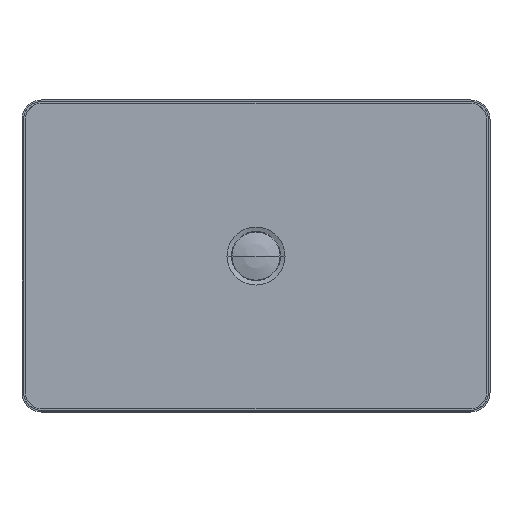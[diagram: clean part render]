
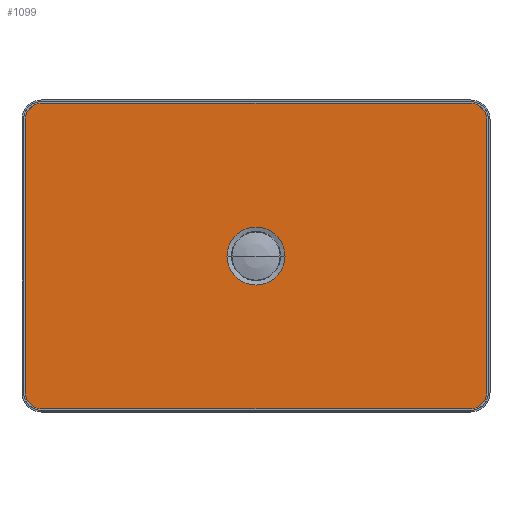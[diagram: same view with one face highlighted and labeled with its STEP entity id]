
A CAD part, top view. The second image highlights one B-rep face of the part: STEP entity #1099.
In plain terms, the highlighted planar face has unit normal (0, 0, 1).
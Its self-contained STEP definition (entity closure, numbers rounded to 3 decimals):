
#567=CARTESIAN_POINT('',(274.9,174.9,-110.));
#568=DIRECTION('',(0.,0.,1.));
#569=DIRECTION('',(1.,0.,0.));
#570=AXIS2_PLACEMENT_3D('',#567,#568,#569);
#580=CARTESIAN_POINT('',(0.,0.,-110.));
#581=DIRECTION('',(0.,0.,-1.));
#582=DIRECTION('',(1.,0.,0.));
#583=AXIS2_PLACEMENT_3D('',#580,#581,#582);
#585=CARTESIAN_POINT('',(0.,0.,-110.));
#586=DIRECTION('',(0.,0.,-1.));
#587=DIRECTION('',(-1.,0.,0.));
#588=AXIS2_PLACEMENT_3D('',#585,#586,#587);
#590=CARTESIAN_POINT('',(-274.9,-174.9,-110.));
#591=DIRECTION('',(0.,0.,1.));
#592=DIRECTION('',(-1.,0.,0.));
#593=AXIS2_PLACEMENT_3D('',#590,#591,#592);
#603=DIRECTION('',(1.,0.,0.));
#604=VECTOR('',#603,549.8);
#605=CARTESIAN_POINT('',(-274.9,-195.9,-110.));
#606=LINE('',#605,#604);
#607=CARTESIAN_POINT('',(274.9,-174.9,-110.));
#608=DIRECTION('',(0.,0.,1.));
#609=DIRECTION('',(0.,-1.,0.));
#610=AXIS2_PLACEMENT_3D('',#607,#608,#609);
#620=DIRECTION('',(0.,1.,0.));
#621=VECTOR('',#620,349.8);
#622=CARTESIAN_POINT('',(295.9,-174.9,-110.));
#623=LINE('',#622,#621);
#918=DIRECTION('',(1.,0.,0.));
#919=VECTOR('',#918,549.8);
#920=CARTESIAN_POINT('',(-274.9,195.9,-110.));
#921=LINE('',#920,#919);
#926=CARTESIAN_POINT('',(-274.9,174.9,-110.));
#927=DIRECTION('',(0.,0.,1.));
#928=DIRECTION('',(0.,1.,0.));
#929=AXIS2_PLACEMENT_3D('',#926,#927,#928);
#939=DIRECTION('',(0.,1.,0.));
#940=VECTOR('',#939,349.8);
#941=CARTESIAN_POINT('',(-295.9,-174.9,-110.));
#942=LINE('',#941,#940);
#1019=CARTESIAN_POINT('',(37.209,0.,-110.));
#1020=VERTEX_POINT('',#1019);
#1021=CARTESIAN_POINT('',(-37.209,0.,-110.));
#1022=VERTEX_POINT('',#1021);
#1039=CARTESIAN_POINT('',(-295.9,-174.9,-110.));
#1040=CARTESIAN_POINT('',(-274.9,-195.9,-110.));
#1041=VERTEX_POINT('',#1039);
#1042=VERTEX_POINT('',#1040);
#1043=CARTESIAN_POINT('',(274.9,-195.9,-110.));
#1044=CARTESIAN_POINT('',(295.9,-174.9,-110.));
#1045=VERTEX_POINT('',#1043);
#1046=VERTEX_POINT('',#1044);
#1047=CARTESIAN_POINT('',(295.9,174.9,-110.));
#1048=VERTEX_POINT('',#1047);
#1049=CARTESIAN_POINT('',(-295.9,174.9,-110.));
#1050=VERTEX_POINT('',#1049);
#1051=CARTESIAN_POINT('',(-274.9,195.9,-110.));
#1052=CARTESIAN_POINT('',(274.9,195.9,-110.));
#1053=VERTEX_POINT('',#1051);
#1054=VERTEX_POINT('',#1052);
#1071=CARTESIAN_POINT('',(-275.,-175.,-110.));
#1072=DIRECTION('',(0.,0.,1.));
#1073=DIRECTION('',(1.,0.,0.));
#1074=AXIS2_PLACEMENT_3D('',#1071,#1072,#1073);
#1075=PLANE('',#1074);
#1077=ORIENTED_EDGE('',*,*,#1076,.F.);
#1079=ORIENTED_EDGE('',*,*,#1078,.T.);
#1081=ORIENTED_EDGE('',*,*,#1080,.F.);
#1083=ORIENTED_EDGE('',*,*,#1082,.T.);
#1084=ORIENTED_EDGE('',*,*,#1060,.F.);
#1086=ORIENTED_EDGE('',*,*,#1085,.F.);
#1088=ORIENTED_EDGE('',*,*,#1087,.F.);
#1090=ORIENTED_EDGE('',*,*,#1089,.F.);
#1091=EDGE_LOOP('',(#1077,#1079,#1081,#1083,#1084,#1086,#1088,#1090));
#1092=FACE_OUTER_BOUND('',#1091,.F.);
#1094=ORIENTED_EDGE('',*,*,#1093,.F.);
#1096=ORIENTED_EDGE('',*,*,#1095,.F.);
#1097=EDGE_LOOP('',(#1094,#1096));
#1098=FACE_BOUND('',#1097,.F.);
#1099=ADVANCED_FACE('',(#1092,#1098),#1075,.T.);
#571=CIRCLE('',#570,21.);
#584=CIRCLE('',#583,37.209);
#589=CIRCLE('',#588,37.209);
#594=CIRCLE('',#593,21.);
#611=CIRCLE('',#610,21.);
#930=CIRCLE('',#929,21.);
#1060=EDGE_CURVE('',#1048,#1054,#571,.T.);
#1076=EDGE_CURVE('',#1041,#1042,#594,.T.);
#1078=EDGE_CURVE('',#1041,#1050,#942,.T.);
#1080=EDGE_CURVE('',#1053,#1050,#930,.T.);
#1082=EDGE_CURVE('',#1053,#1054,#921,.T.);
#1085=EDGE_CURVE('',#1046,#1048,#623,.T.);
#1087=EDGE_CURVE('',#1045,#1046,#611,.T.);
#1089=EDGE_CURVE('',#1042,#1045,#606,.T.);
#1093=EDGE_CURVE('',#1020,#1022,#584,.T.);
#1095=EDGE_CURVE('',#1022,#1020,#589,.T.);
